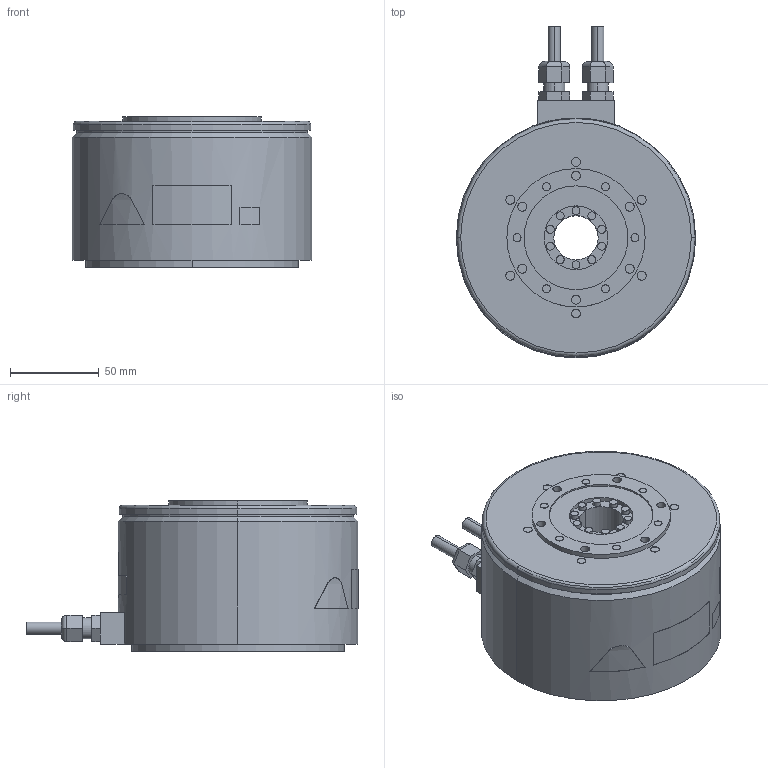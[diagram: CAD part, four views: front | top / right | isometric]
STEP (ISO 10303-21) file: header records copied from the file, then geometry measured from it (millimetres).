
FILE_DESCRIPTION (( 'STEP AP203' ), '1' );
FILE_NAME ('sgm7f_10b_a4_.STEP', '2016-07-24T06:26:58', ( '匠エンジニアリング山之内' ), ( 'TAKUMI-Engniaring' ), 'SwSTEP 2.0', 'SolidWorks 2006303', '' );
FILE_SCHEMA (( 'CONFIG_CONTROL_DESIGN' ));
Length unit declared in the file: millimetre
Products named in the file (1): sgm7f_10b_a4_
Bounding box: 135 x 187.2 x 85 mm (x, y, z)
Volume: 1137411.3 mm3; surface area: 93394.4 mm2
Topology: 1 solids, 1 shells, 250 faces, 529 edges, 346 vertices
Faces by surface type: cylinder 137, plane 107, cone 4, torus 2
Entity records: 6932 total; most frequent: DIRECTION 1275, CARTESIAN_POINT 1234, ORIENTED_EDGE 1058, EDGE_CURVE 529, AXIS2_PLACEMENT_3D 513, VERTEX_POINT 346, EDGE_LOOP 317, CIRCLE 262
